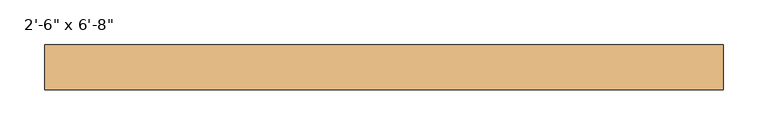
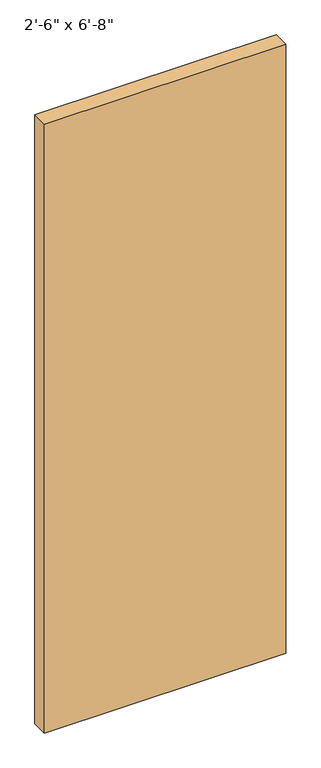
"""IFC4 building model written with IfcOpenShell, lengths in millimetres: door geometry."""

from ifc_helpers import new_model, si_unit, origin, origin_with_axes, place, context, project, spatial, polyline, outline, extrude, source, transform, mapped, element, save


def door_73b491b7(model_context):
    return source(origin(), model_context, "Body", "SweptSolid", [
        extrude(outline(polyline([(381.0, 50.6), (-381.0, 50.6), (-381.0, 101.6), (381.0, 101.6), (381.0, 50.6)])), origin_with_axes(), (0.0, 0.0, 1.0), 2032.0),
    ])


if __name__ == "__main__":
    model = new_model("IFC4")
    model_context = context("Model", 3, world=origin())
    ifc_project = project(units=[si_unit("LENGTHUNIT", "METRE", prefix="MILLI")], contexts=[model_context])
    site = spatial("IfcSite", under=ifc_project)
    building = spatial("IfcBuilding", under=site)
    placement = place(None, origin())
    door_shape = door_73b491b7(model_context)
    element("IfcDoor", 1, ObjectType="Planitar - Single Door_Flush Panel : 2'-6\" x 6'-8\"", at=placement, inside=building, context=model_context, shape_type="MappedRepresentation", body=[
        mapped(door_shape, transform((0.0, 0.0, 0.0), x_axis=(1.0, 0.0, 0.0), y_axis=(0.0, 1.0, 0.0), z_axis=(0.0, 0.0, 1.0))),
    ])
    save(model, "model.ifc")
